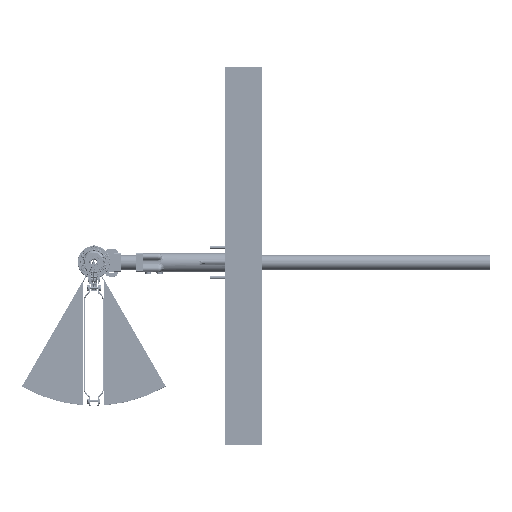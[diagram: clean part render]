
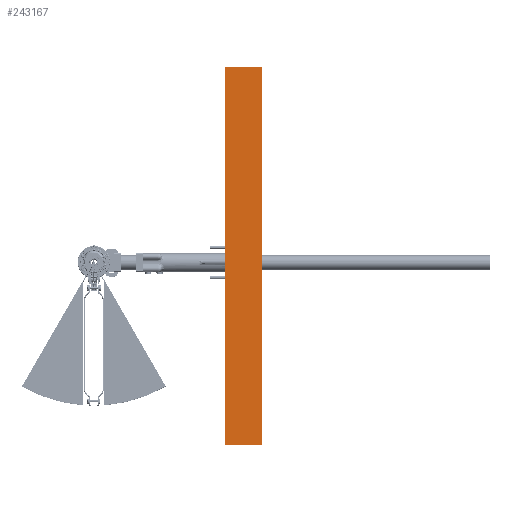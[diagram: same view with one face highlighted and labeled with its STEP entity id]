
A CAD part, top view. The second image highlights one B-rep face of the part: STEP entity #243167.
In plain terms, the highlighted planar face has unit normal (0, 0, 1) as drawn and (0, -1, 0) by its records, which use the part's own axes.
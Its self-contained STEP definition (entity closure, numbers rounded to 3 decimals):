
#15156 = FACE_OUTER_BOUND ( 'NONE', #19300, .T. ) ;
#19300 = EDGE_LOOP ( 'NONE', ( #220267, #67679, #145412, #95934 ) ) ;
#54929 = AXIS2_PLACEMENT_3D ( 'NONE', #156779, #250982, #74443 ) ;
#60337 = VECTOR ( 'NONE', #81678, 1000. ) ;
#63541 = VERTEX_POINT ( 'NONE', #203617 ) ;
#63616 = LINE ( 'NONE', #100987, #60337 ) ;
#66021 = VERTEX_POINT ( 'NONE', #109121 ) ;
#67679 = ORIENTED_EDGE ( 'NONE', *, *, #126773, .F. ) ;
#74443 = DIRECTION ( 'NONE',  ( 0., 0., -1. ) ) ;
#81678 = DIRECTION ( 'NONE',  ( 0., 0., 1. ) ) ;
#95934 = ORIENTED_EDGE ( 'NONE', *, *, #178745, .T. ) ;
#99818 = CARTESIAN_POINT ( 'NONE',  ( -500., -330., -50. ) ) ;
#100987 = CARTESIAN_POINT ( 'NONE',  ( 500., -330., -50. ) ) ;
#109121 = CARTESIAN_POINT ( 'NONE',  ( -500., -330., 50. ) ) ;
#115581 = PLANE ( 'NONE',  #54929 ) ;
#126062 = VECTOR ( 'NONE', #175054, 1000. ) ;
#126773 = EDGE_CURVE ( 'NONE', #66021, #63541, #137653, .T. ) ;
#133766 = LINE ( 'NONE', #230488, #170250 ) ;
#137653 = LINE ( 'NONE', #153212, #126062 ) ;
#141010 = EDGE_CURVE ( 'NONE', #209673, #63541, #63616, .T. ) ;
#145412 = ORIENTED_EDGE ( 'NONE', *, *, #220691, .F. ) ;
#150557 = DIRECTION ( 'NONE',  ( 1., 0., 0. ) ) ;
#153212 = CARTESIAN_POINT ( 'NONE',  ( 500., -330., 50. ) ) ;
#156779 = CARTESIAN_POINT ( 'NONE',  ( 500., -330., -50. ) ) ;
#166260 = VERTEX_POINT ( 'NONE', #99818 ) ;
#170250 = VECTOR ( 'NONE', #150557, 1000. ) ;
#171363 = LINE ( 'NONE', #250022, #175420 ) ;
#175054 = DIRECTION ( 'NONE',  ( 1., 0., 0. ) ) ;
#175420 = VECTOR ( 'NONE', #211320, 1000. ) ;
#178745 = EDGE_CURVE ( 'NONE', #166260, #209673, #133766, .T. ) ;
#188196 = CARTESIAN_POINT ( 'NONE',  ( 500., -330., -50. ) ) ;
#203617 = CARTESIAN_POINT ( 'NONE',  ( 500., -330., 50. ) ) ;
#209673 = VERTEX_POINT ( 'NONE', #188196 ) ;
#211320 = DIRECTION ( 'NONE',  ( 0., 0., 1. ) ) ;
#220267 = ORIENTED_EDGE ( 'NONE', *, *, #141010, .T. ) ;
#220691 = EDGE_CURVE ( 'NONE', #166260, #66021, #171363, .T. ) ;
#230488 = CARTESIAN_POINT ( 'NONE',  ( 500., -330., -50. ) ) ;
#243167 = ADVANCED_FACE ( 'NONE', ( #15156 ), #115581, .T. ) ;
#250022 = CARTESIAN_POINT ( 'NONE',  ( -500., -330., -50. ) ) ;
#250982 = DIRECTION ( 'NONE',  ( 0., -1., 0. ) ) ;
